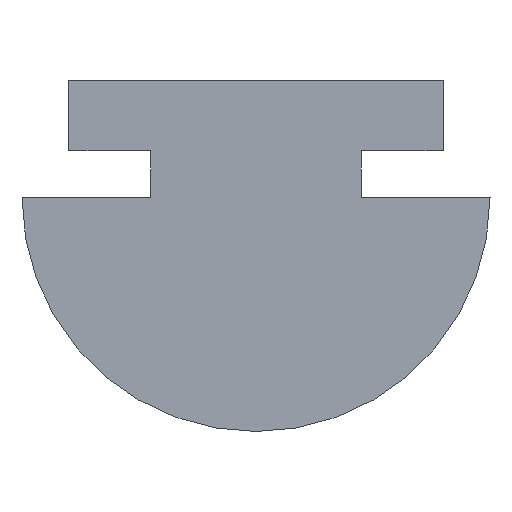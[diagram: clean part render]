
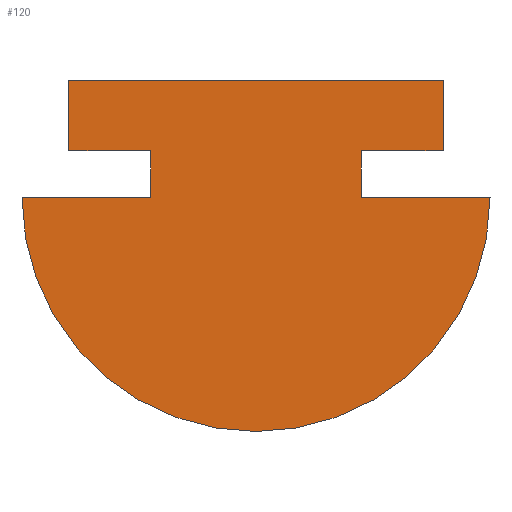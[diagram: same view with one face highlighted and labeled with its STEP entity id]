
A CAD part, left-side view. The second image highlights one B-rep face of the part: STEP entity #120.
In plain terms, the highlighted planar face has unit normal (-1, 0, 0).
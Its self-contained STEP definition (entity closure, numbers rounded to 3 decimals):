
#1 = VERTEX_POINT ( 'NONE', #52 ) ;
#7 = EDGE_CURVE ( 'NONE', #330, #244, #66, .T. ) ;
#14 = ORIENTED_EDGE ( 'NONE', *, *, #94, .F. ) ;
#25 = EDGE_CURVE ( 'NONE', #388, #1, #221, .T. ) ;
#26 = CARTESIAN_POINT ( 'NONE',  ( 0., -8., 12. ) ) ;
#33 = VECTOR ( 'NONE', #175, 1000. ) ;
#34 = LINE ( 'NONE', #228, #324 ) ;
#47 = DIRECTION ( 'NONE',  ( 0., 0., -1. ) ) ;
#52 = CARTESIAN_POINT ( 'NONE',  ( 0., -4.5, 12. ) ) ;
#56 = CARTESIAN_POINT ( 'NONE',  ( 0., -4.5, 10. ) ) ;
#64 = ORIENTED_EDGE ( 'NONE', *, *, #25, .F. ) ;
#66 = LINE ( 'NONE', #56, #169 ) ;
#73 = VECTOR ( 'NONE', #97, 1000. ) ;
#77 = EDGE_CURVE ( 'NONE', #305, #333, #284, .T. ) ;
#93 = VECTOR ( 'NONE', #389, 1000. ) ;
#94 = EDGE_CURVE ( 'NONE', #357, #360, #106, .T. ) ;
#97 = DIRECTION ( 'NONE',  ( 0., 0., -1. ) ) ;
#100 = DIRECTION ( 'NONE',  ( 0., 0., 1. ) ) ;
#106 = LINE ( 'NONE', #243, #134 ) ;
#110 = FACE_OUTER_BOUND ( 'NONE', #238, .T. ) ;
#117 = ORIENTED_EDGE ( 'NONE', *, *, #161, .F. ) ;
#120 = ADVANCED_FACE ( 'NONE', ( #110 ), #148, .F. ) ;
#125 = DIRECTION ( 'NONE',  ( 0., 0., -1. ) ) ;
#129 = CARTESIAN_POINT ( 'NONE',  ( 0., -10., 10. ) ) ;
#134 = VECTOR ( 'NONE', #144, 1000. ) ;
#139 = CARTESIAN_POINT ( 'NONE',  ( 0., 4.5, 12. ) ) ;
#142 = LINE ( 'NONE', #385, #73 ) ;
#144 = DIRECTION ( 'NONE',  ( 0., 1., 0. ) ) ;
#148 = PLANE ( 'NONE',  #196 ) ;
#157 = ORIENTED_EDGE ( 'NONE', *, *, #77, .F. ) ;
#160 = CARTESIAN_POINT ( 'NONE',  ( 0., 8., 15. ) ) ;
#161 = EDGE_CURVE ( 'NONE', #289, #355, #301, .T. ) ;
#162 = DIRECTION ( 'NONE',  ( 0., -1., 0. ) ) ;
#165 = ORIENTED_EDGE ( 'NONE', *, *, #202, .F. ) ;
#167 = VECTOR ( 'NONE', #125, 1000. ) ;
#168 = CARTESIAN_POINT ( 'NONE',  ( 0., 0., 10. ) ) ;
#169 = VECTOR ( 'NONE', #346, 1000. ) ;
#174 = CARTESIAN_POINT ( 'NONE',  ( 0., -4.5, 10. ) ) ;
#175 = DIRECTION ( 'NONE',  ( 0., 1., 0. ) ) ;
#181 = AXIS2_PLACEMENT_3D ( 'NONE', #168, #304, #47 ) ;
#188 = ORIENTED_EDGE ( 'NONE', *, *, #380, .F. ) ;
#194 = ORIENTED_EDGE ( 'NONE', *, *, #7, .F. ) ;
#195 = CARTESIAN_POINT ( 'NONE',  ( 0., 10., 10. ) ) ;
#196 = AXIS2_PLACEMENT_3D ( 'NONE', #315, #216, #348 ) ;
#197 = CARTESIAN_POINT ( 'NONE',  ( 0., -8., 15. ) ) ;
#202 = EDGE_CURVE ( 'NONE', #333, #357, #34, .T. ) ;
#214 = VECTOR ( 'NONE', #162, 1000. ) ;
#216 = DIRECTION ( 'NONE',  ( 1., 0., 0. ) ) ;
#217 = ORIENTED_EDGE ( 'NONE', *, *, #308, .F. ) ;
#218 = ORIENTED_EDGE ( 'NONE', *, *, #222, .F. ) ;
#221 = LINE ( 'NONE', #401, #33 ) ;
#222 = EDGE_CURVE ( 'NONE', #360, #289, #384, .T. ) ;
#228 = CARTESIAN_POINT ( 'NONE',  ( 0., 4.5, 10. ) ) ;
#232 = VECTOR ( 'NONE', #400, 1000. ) ;
#238 = EDGE_LOOP ( 'NONE', ( #188, #194, #217, #64, #345, #117, #218, #14, #165, #157 ) ) ;
#241 = EDGE_CURVE ( 'NONE', #355, #388, #398, .T. ) ;
#243 = CARTESIAN_POINT ( 'NONE',  ( 0., 4.5, 12. ) ) ;
#244 = VERTEX_POINT ( 'NONE', #129 ) ;
#263 = CARTESIAN_POINT ( 'NONE',  ( 0., 8., 15. ) ) ;
#273 = CARTESIAN_POINT ( 'NONE',  ( 0., -8., 15. ) ) ;
#275 = CARTESIAN_POINT ( 'NONE',  ( 0., 10., 10. ) ) ;
#282 = CIRCLE ( 'NONE', #181, 10. ) ;
#284 = LINE ( 'NONE', #275, #232 ) ;
#289 = VERTEX_POINT ( 'NONE', #160 ) ;
#301 = LINE ( 'NONE', #263, #214 ) ;
#304 = DIRECTION ( 'NONE',  ( 1., 0., 0. ) ) ;
#305 = VERTEX_POINT ( 'NONE', #195 ) ;
#308 = EDGE_CURVE ( 'NONE', #1, #330, #142, .T. ) ;
#315 = CARTESIAN_POINT ( 'NONE',  ( 0., 0., 10. ) ) ;
#324 = VECTOR ( 'NONE', #100, 1000. ) ;
#330 = VERTEX_POINT ( 'NONE', #174 ) ;
#333 = VERTEX_POINT ( 'NONE', #399 ) ;
#337 = CARTESIAN_POINT ( 'NONE',  ( 0., 8., 12. ) ) ;
#345 = ORIENTED_EDGE ( 'NONE', *, *, #241, .F. ) ;
#346 = DIRECTION ( 'NONE',  ( 0., -1., 0. ) ) ;
#348 = DIRECTION ( 'NONE',  ( 0., 0., -1. ) ) ;
#354 = CARTESIAN_POINT ( 'NONE',  ( 0., 8., 12. ) ) ;
#355 = VERTEX_POINT ( 'NONE', #273 ) ;
#357 = VERTEX_POINT ( 'NONE', #139 ) ;
#360 = VERTEX_POINT ( 'NONE', #337 ) ;
#380 = EDGE_CURVE ( 'NONE', #244, #305, #282, .T. ) ;
#384 = LINE ( 'NONE', #354, #93 ) ;
#385 = CARTESIAN_POINT ( 'NONE',  ( 0., -4.5, 12. ) ) ;
#388 = VERTEX_POINT ( 'NONE', #26 ) ;
#389 = DIRECTION ( 'NONE',  ( 0., 0., 1. ) ) ;
#398 = LINE ( 'NONE', #197, #167 ) ;
#399 = CARTESIAN_POINT ( 'NONE',  ( 0., 4.5, 10. ) ) ;
#400 = DIRECTION ( 'NONE',  ( 0., -1., 0. ) ) ;
#401 = CARTESIAN_POINT ( 'NONE',  ( 0., -8., 12. ) ) ;
